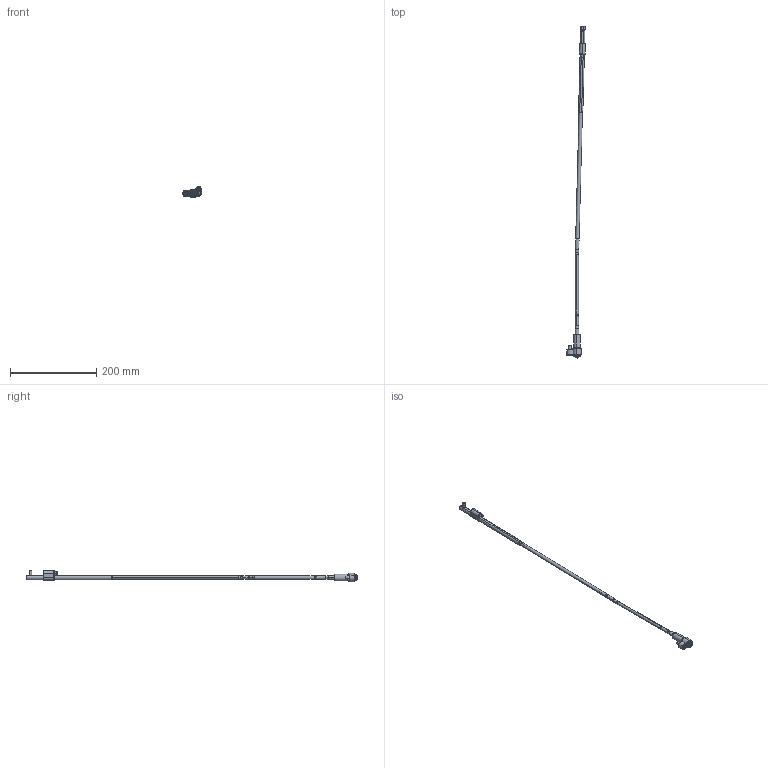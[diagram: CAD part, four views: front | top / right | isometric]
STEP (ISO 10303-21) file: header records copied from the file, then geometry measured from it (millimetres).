
FILE_DESCRIPTION (( 'STEP AP214' ), '1' );
FILE_NAME ('WL080125-INJ 1,5°.STEP', '2021-03-19T15:30:27', ( '' ), ( '' ), 'SwSTEP 2.0', 'SolidWorks 2019', '' );
FILE_SCHEMA (( 'AUTOMOTIVE_DESIGN' ));
Length unit declared in the file: millimetre
Products named in the file (17): WL080100-E; Web-WP08-1; 1DIN912545_DIN 912 M5 x 50 --- 50C; WL080100-D; 9DR2206-TOR; WL080100-B_WL0800FF; Web-WL08-F00.SLDPRT; Web-WL08XX-A7_OFF-WL080125-1,5; WL080100-C; 1DIN912616_DIN 912 M6 x 16 --- 16C; 3IMAN4X2-150_con sello; WL080100-B1_WL0800FF-1; Web-WL08-F01; Web-WL08-A2; Web-WL08-A3; WL080125-INJ 1,5°; Web-WL08-A1
Assembly tree (16 placements, depth 3):
  WL080125-INJ 1,5°
    Web-WP08-1
    Web-WL08XX-A7_OFF-WL080125-1,5
    Web-WL08-A3
    Web-WL08-A2
    Web-WL08-A1
    WL080100-D
    WL080100-C
    WL080100-B_WL0800FF
      WL080100-B1_WL0800FF-1
      3IMAN4X2-150_con sello
    WL080100-E
    9DR2206-TOR
    Web-WL08-F00.SLDPRT
      Web-WL08-F01
      1DIN912545_DIN 912 M5 x 50 --- 50C
      1DIN912616_DIN 912 M6 x 16 --- 16C
Bounding box: 43.2 x 771.94 x 26.9 mm (x, y, z)
Volume: 58701.7 mm3; surface area: 34416 mm2
Topology: 15 solids, 15 shells, 424 faces, 888 edges, 516 vertices
Faces by surface type: plane 132, cylinder 128, cone 116, torus 48
Entity records: 13492 total; most frequent: DIRECTION 2218, CARTESIAN_POINT 2045, ORIENTED_EDGE 1756, AXIS2_PLACEMENT_3D 921, EDGE_CURVE 878, VERTEX_POINT 516, CIRCLE 476, EDGE_LOOP 468
